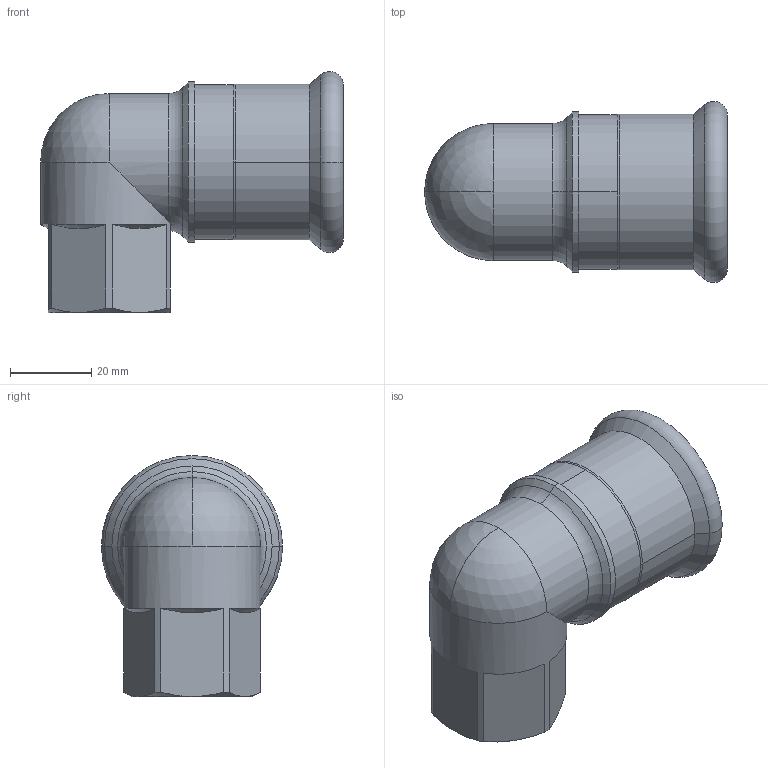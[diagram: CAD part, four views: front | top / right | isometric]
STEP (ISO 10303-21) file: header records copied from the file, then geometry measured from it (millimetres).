
FILE_DESCRIPTION(('Creo Elements/Direct Modeling STEP Export'),'2;1');
FILE_NAME('R2709 35xRp3-4.stp','2019-09-25T11:01:25',(''),(''),'PTC Creo Elements/Direct Modeling STEP processor for AP214 (Solid Model)','PTC Creo Elements/Direct Modeling 19.0C 15-Aug-2015 (C) Parametric Technology GmbH','');
FILE_SCHEMA(('AUTOMOTIVE_DESIGN { 1 0 10303 214 1 1 1 1 }'));
Length unit declared in the file: millimetre
Products named in the file (1): R2709_35xRp3-4
Bounding box: 74.45 x 44.55 x 59.27 mm (x, y, z)
Volume: 27547.1 mm3; surface area: 21667.6 mm2
Topology: 1 solids, 1 shells, 104 faces, 262 edges, 164 vertices
Faces by surface type: plane 40, cylinder 32, cone 19, torus 9, sphere 4
Entity records: 3901 total; most frequent: CARTESIAN_POINT 1605, ORIENTED_EDGE 516, DIRECTION 411, EDGE_CURVE 258, VERTEX_POINT 164, AXIS2_PLACEMENT_3D 149, EDGE_LOOP 120, VECTOR 113
